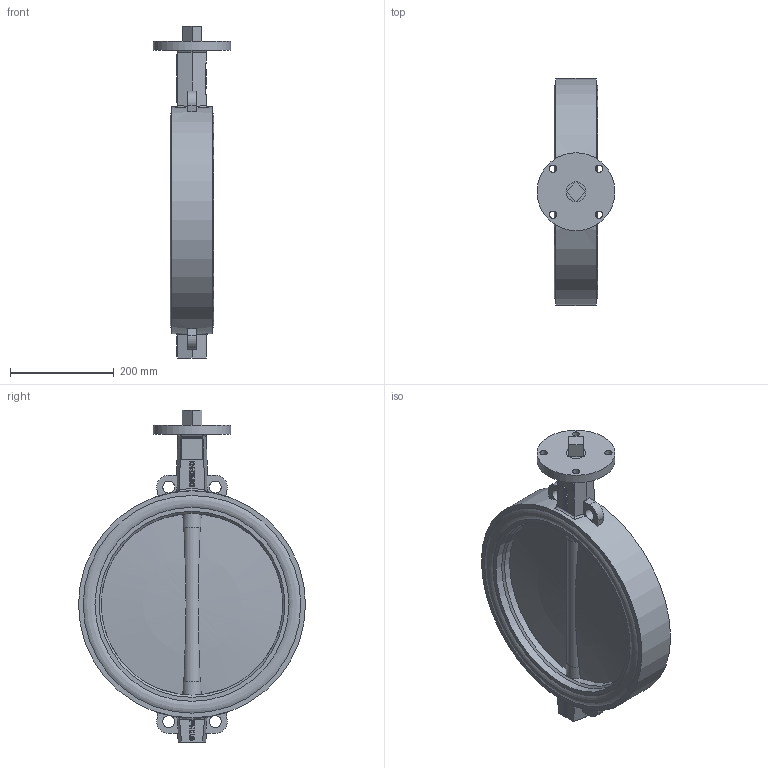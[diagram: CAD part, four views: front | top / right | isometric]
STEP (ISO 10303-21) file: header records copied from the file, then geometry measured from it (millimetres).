
FILE_DESCRIPTION(('STEP AP242'), '1');
FILE_NAME('Ïîâîðîòíûé çàòâîð ïîä ýëåêòðîïðèâîä', '', ('UNSPECIFIED'), ('UNSPECIFIED'), 'C3D Converter', 'C3D Toolkit', '');
FILE_SCHEMA(('AP242_MANAGED_MODEL_BASED_3D_ENGINEERING_MIM_LF { 1 0 10303 442 1 1 4 }'));
Length unit declared in the file: millimetre
Products named in the file (6): П
Assembly tree (6 placements, depth 2):
  (unnamed)
    (unnamed)
    П  x2
    (unnamed)
    (unnamed)
    (unnamed)
Bounding box: 150 x 437 x 639 mm (x, y, z)
Volume: 6950987.6 mm3; surface area: 1057361.9 mm2
Topology: 6 solids, 6 shells, 440 faces, 1182 edges, 778 vertices
Faces by surface type: plane 192, extrusion 173, cylinder 53, bspline 8, torus 6, cone 4, sphere 4
Full cylindrical faces by diameter (mm): 11.421 x1, 14 x4, 23 x4, 27 x6, 37.05 x4, 38.184 x5, 150 x1, 350 x1, 357.8 x2, 373.4 x2, 396.1 x4, 418.8 x4, 437 x1
Entity records: 19262 total; most frequent: CARTESIAN_POINT 6622, ORIENTED_EDGE 2256, DIRECTION 1534, EDGE_CURVE 1128, VERTEX_POINT 773, VECTOR 740, B_SPLINE_CURVE_WITH_KNOTS 573, LINE 567
